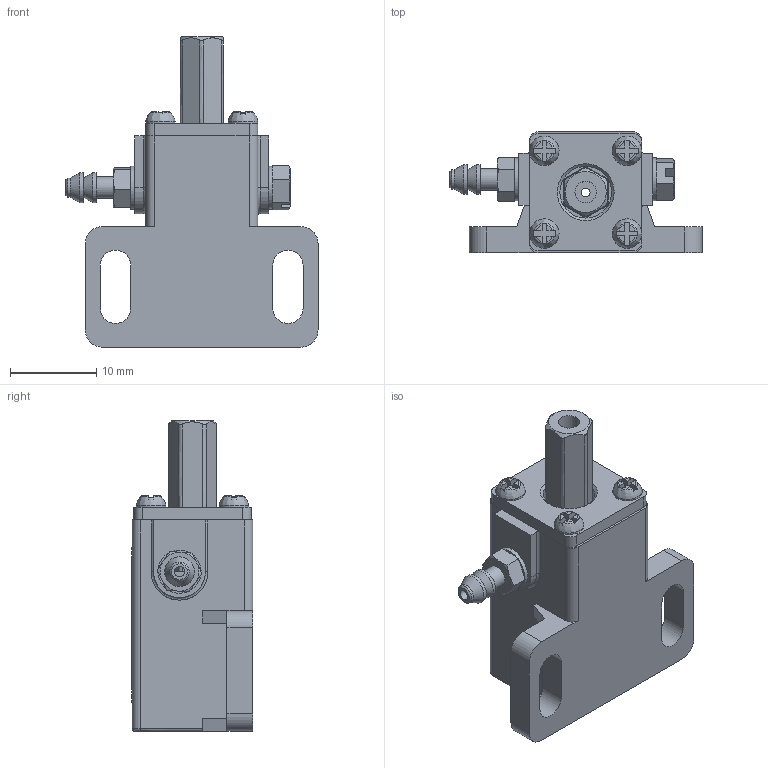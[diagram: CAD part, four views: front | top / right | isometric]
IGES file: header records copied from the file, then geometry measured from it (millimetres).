
Start section: SolidWorks IGES file using analytic representation for surfaces
Global section: file name: \\Ss-share1\share\030eins事業部\技術課\☆eins parts 量産図\3D\掴む\UMCD-T_210726\UMCD-5T\200260-8.IGS; native system: SolidWorks 2018; preprocessor: SolidWorks 2018; author: STAR064C; date: 210802.130628; units: millimetre
Bounding box: 29.25 x 14.1 x 36 mm (x, y, z)
Surface area: 3621.1 mm2 (no closed solid volume)
Topology: 0 solids, 0 shells, 1094 faces, 6584 edges, 6550 vertices
Faces by surface type: bspline 1024, revolution 70
